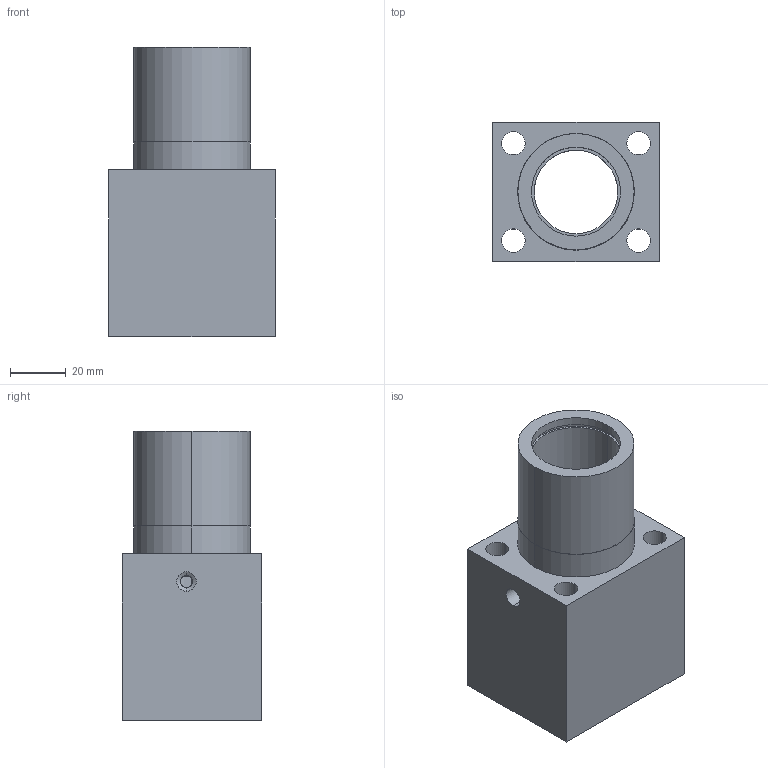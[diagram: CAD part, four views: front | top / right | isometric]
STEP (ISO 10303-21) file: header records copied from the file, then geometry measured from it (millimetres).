
FILE_DESCRIPTION (( 'STEP AP203' ), '1' );
FILE_NAME ('KTFG83-20.SLDPRT.step', '2020-06-15T06:06:20', ( '' ), ( '' ), 'SwSTEP 2.0', 'SolidWorks 2019', '' );
FILE_SCHEMA (( 'CONFIG_CONTROL_DESIGN' ));
Length unit declared in the file: millimetre
Products named in the file (2): KTFG83-20.SLDPRT
Bounding box: 60 x 50 x 104 mm (x, y, z)
Volume: 143328.4 mm3; surface area: 40461.6 mm2
Topology: 1 solids, 1 shells, 63 faces, 145 edges, 90 vertices
Faces by surface type: cylinder 39, plane 14, cone 10
Entity records: 2022 total; most frequent: CARTESIAN_POINT 360, DIRECTION 345, ORIENTED_EDGE 290, EDGE_CURVE 145, AXIS2_PLACEMENT_3D 141, VERTEX_POINT 90, EDGE_LOOP 81, CIRCLE 76
